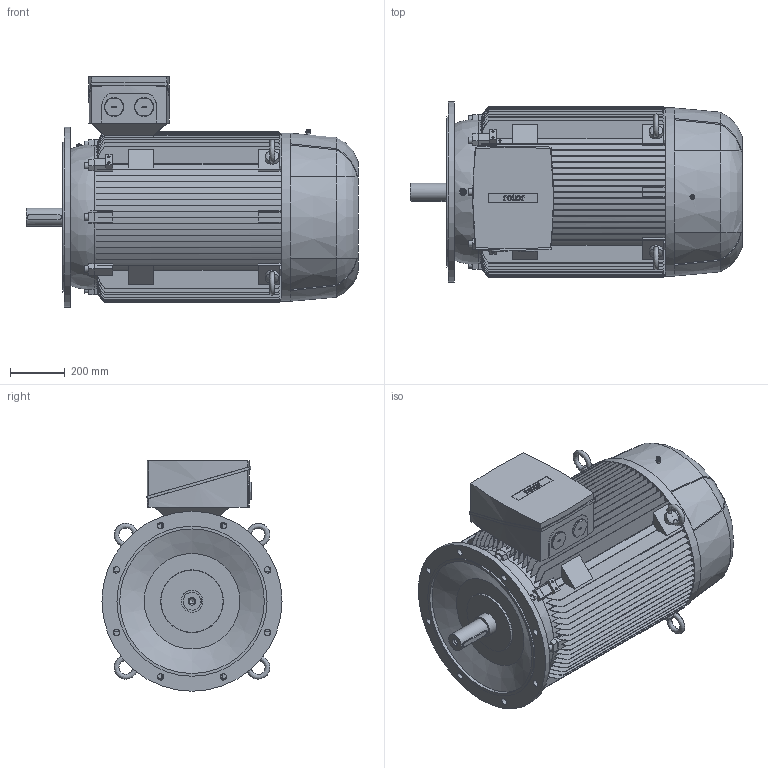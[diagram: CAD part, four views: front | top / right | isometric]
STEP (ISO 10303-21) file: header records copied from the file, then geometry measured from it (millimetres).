
FILE_DESCRIPTION (( 'STEP AP214' ), '1' );
FILE_NAME ('6RN315L02E15 IM3011.STEP', '2017-12-19T09:36:59', ( 'rbc_ict' ), ( '' ), 'SwSTEP 2.0', 'SolidWorks 2015', '' );
FILE_SCHEMA (( 'AUTOMOTIVE_DESIGN' ));
Length unit declared in the file: millimetre
Products named in the file (1): 6RN315L02E15 IM3011
Bounding box: 1217 x 660 x 845 mm (x, y, z)
Volume: 272397916.1 mm3; surface area: 8132239.2 mm2
Topology: 1 solids, 1 shells, 1114 faces, 3224 edges, 2147 vertices
Faces by surface type: plane 744, bspline 201, cylinder 152, cone 17
Full cylindrical faces by diameter (mm): 8 x4, 8.16 x1, 12 x2, 14 x1, 16 x2, 20 x1, 24 x8, 50 x4, 65 x1, 70 x2, 80 x1, 530 x1, 550 x1, 616 x1, 660 x1
Entity records: 58352 total; most frequent: CARTESIAN_POINT 20001, ORIENTED_EDGE 6320, DIRECTION 4564, EDGE_CURVE 3160, VERTEX_POINT 2132, VECTOR 1784, LINE 1784, AXIS2_PLACEMENT_3D 1390
